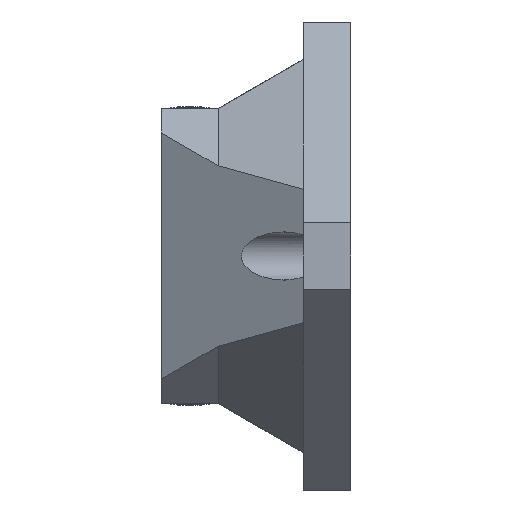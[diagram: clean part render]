
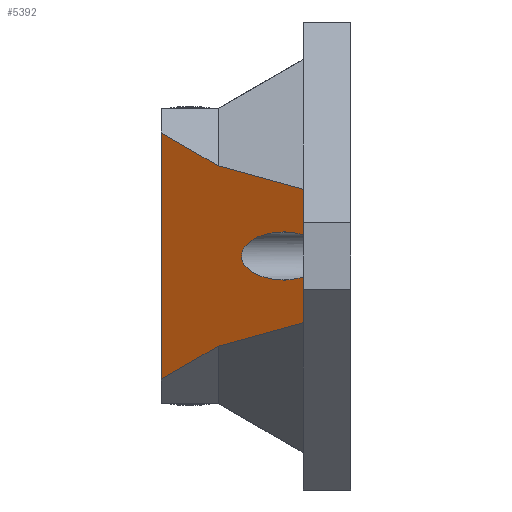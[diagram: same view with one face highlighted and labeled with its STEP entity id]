
A CAD part, left-side view. The second image highlights one B-rep face of the part: STEP entity #5392.
In plain terms, the highlighted planar face has unit normal (-0.866, 0.5, 0).
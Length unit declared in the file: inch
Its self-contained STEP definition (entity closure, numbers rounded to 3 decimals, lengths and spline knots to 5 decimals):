
#147 = VECTOR ( 'NONE', #5827, 39.37008 ) ;
#196 = CARTESIAN_POINT ( 'NONE',  ( -2.475, 3.93701, -2.56021 ) ) ;
#290 = VERTEX_POINT ( 'NONE', #196 ) ;
#327 = CARTESIAN_POINT ( 'NONE',  ( -4.1051, 1.11358, -0.47858 ) ) ;
#524 = ORIENTED_EDGE ( 'NONE', *, *, #5035, .T. ) ;
#540 = ORIENTED_EDGE ( 'NONE', *, *, #6911, .T. ) ;
#572 = LINE ( 'NONE', #7210, #4988 ) ;
#600 = CARTESIAN_POINT ( 'NONE',  ( -3.93701, 1.40474, -0.5 ) ) ;
#652 = CARTESIAN_POINT ( 'NONE',  ( -2.93701, 3.13679, 0.5 ) ) ;
#680 = LINE ( 'NONE', #5335, #6199 ) ;
#772 = LINE ( 'NONE', #2852, #6289 ) ;
#797 = EDGE_CURVE ( 'NONE', #4101, #6786, #6210, .T. ) ;
#846 =( BOUNDED_CURVE ( )  B_SPLINE_CURVE ( 3, ( #600, #6587, #652, #6024 ),
 .UNSPECIFIED., .F., .F. ) 
 B_SPLINE_CURVE_WITH_KNOTS ( ( 4, 4 ),
 ( 4.71239, 7.85398 ),
 .UNSPECIFIED. ) 
 CURVE ( )  GEOMETRIC_REPRESENTATION_ITEM ( )  RATIONAL_B_SPLINE_CURVE ( ( 1., 0.333, 0.333, 1. ) ) 
 REPRESENTATION_ITEM ( '' )  );
#849 = VECTOR ( 'NONE', #2330, 39.37008 ) ;
#868 = VERTEX_POINT ( 'NONE', #6564 ) ;
#872 = DIRECTION ( 'NONE',  ( 0.866, -0.5, 0. ) ) ;
#931 = CARTESIAN_POINT ( 'NONE',  ( -4.1051, 1.11358, 0.47858 ) ) ;
#997 = DIRECTION ( 'NONE',  ( 0.447, 0.775, 0.447 ) ) ;
#1182 = EDGE_CURVE ( 'NONE', #6786, #6698, #3255, .T. ) ;
#1240 = DIRECTION ( 'NONE',  ( -0.486, -0.842, 0.233 ) ) ;
#1270 = EDGE_LOOP ( 'NONE', ( #6567, #3192, #3568, #2574, #5750, #2462, #540, #524, #5597, #4566 ) ) ;
#1489 = PLANE ( 'NONE',  #6613 ) ;
#1601 = VECTOR ( 'NONE', #7002, 39.37008 ) ;
#1797 = EDGE_CURVE ( 'NONE', #3268, #7055, #3799, .T. ) ;
#1922 = EDGE_CURVE ( 'NONE', #6698, #2176, #846, .T. ) ;
#1946 = CARTESIAN_POINT ( 'NONE',  ( -3.15691, 2.75591, -1.8783 ) ) ;
#2047 = CARTESIAN_POINT ( 'NONE',  ( -3.93701, 1.40474, 0.5 ) ) ;
#2176 = VERTEX_POINT ( 'NONE', #5634 ) ;
#2330 = DIRECTION ( 'NONE',  ( 0.486, 0.842, 0.233 ) ) ;
#2427 = EDGE_CURVE ( 'NONE', #2479, #4101, #680, .T. ) ;
#2462 = ORIENTED_EDGE ( 'NONE', *, *, #1922, .T. ) ;
#2479 = VERTEX_POINT ( 'NONE', #1946 ) ;
#2574 = ORIENTED_EDGE ( 'NONE', *, *, #797, .T. ) ;
#2593 = CARTESIAN_POINT ( 'NONE',  ( -4.17977, 0.98425, -0.43711 ) ) ;
#2641 = EDGE_CURVE ( 'NONE', #7055, #290, #5735, .T. ) ;
#2852 = CARTESIAN_POINT ( 'NONE',  ( -4.17977, 0.98425, -5.56777 ) ) ;
#2959 = LINE ( 'NONE', #4092, #849 ) ;
#3017 = EDGE_CURVE ( 'NONE', #290, #2479, #572, .T. ) ;
#3192 = ORIENTED_EDGE ( 'NONE', *, *, #3017, .T. ) ;
#3241 = CARTESIAN_POINT ( 'NONE',  ( -2.475, 3.93701, -5.56777 ) ) ;
#3255 =( BOUNDED_CURVE ( )  B_SPLINE_CURVE ( 3, ( #7500, #327, #6779, #3864 ),
 .UNSPECIFIED., .F., .F. ) 
 B_SPLINE_CURVE_WITH_KNOTS ( ( 4, 4 ),
 ( 4.20542, 4.71239 ),
 .UNSPECIFIED. ) 
 CURVE ( )  GEOMETRIC_REPRESENTATION_ITEM ( )  RATIONAL_B_SPLINE_CURVE ( ( 1., 0.979, 0.979, 1. ) ) 
 REPRESENTATION_ITEM ( '' )  );
#3268 = VERTEX_POINT ( 'NONE', #4418 ) ;
#3568 = ORIENTED_EDGE ( 'NONE', *, *, #2427, .T. ) ;
#3759 = CARTESIAN_POINT ( 'NONE',  ( -3.93701, 1.40474, -0.5 ) ) ;
#3799 = LINE ( 'NONE', #6939, #4999 ) ;
#3803 = CARTESIAN_POINT ( 'NONE',  ( -2.475, 3.93701, 2.56021 ) ) ;
#3831 = CARTESIAN_POINT ( 'NONE',  ( -4.02242, 1.2568, 0.5 ) ) ;
#3864 = CARTESIAN_POINT ( 'NONE',  ( -3.93701, 1.40474, -0.5 ) ) ;
#4082 = CARTESIAN_POINT ( 'NONE',  ( -2.475, 3.93701, 0. ) ) ;
#4092 = CARTESIAN_POINT ( 'NONE',  ( -3.35588, 2.41128, 1.78293 ) ) ;
#4101 = VERTEX_POINT ( 'NONE', #4928 ) ;
#4418 = CARTESIAN_POINT ( 'NONE',  ( -3.15691, 2.75591, 1.8783 ) ) ;
#4566 = ORIENTED_EDGE ( 'NONE', *, *, #1797, .T. ) ;
#4928 = CARTESIAN_POINT ( 'NONE',  ( -4.17977, 0.98425, -1.388 ) ) ;
#4988 = VECTOR ( 'NONE', #5982, 39.37008 ) ;
#4999 = VECTOR ( 'NONE', #997, 39.37008 ) ;
#5035 = EDGE_CURVE ( 'NONE', #6399, #868, #772, .T. ) ;
#5335 = CARTESIAN_POINT ( 'NONE',  ( -2.09393, 4.59704, -2.38784 ) ) ;
#5392 = ADVANCED_FACE ( 'NONE', ( #6751 ), #1489, .F. ) ;
#5597 = ORIENTED_EDGE ( 'NONE', *, *, #5842, .T. ) ;
#5634 = CARTESIAN_POINT ( 'NONE',  ( -3.93701, 1.40474, 0.5 ) ) ;
#5724 = CARTESIAN_POINT ( 'NONE',  ( -4.17977, 0.98425, 0.43711 ) ) ;
#5735 = LINE ( 'NONE', #4082, #1601 ) ;
#5750 = ORIENTED_EDGE ( 'NONE', *, *, #1182, .T. ) ;
#5827 = DIRECTION ( 'NONE',  ( 0., 0., 1. ) ) ;
#5842 = EDGE_CURVE ( 'NONE', #868, #3268, #2959, .T. ) ;
#5928 = CARTESIAN_POINT ( 'NONE',  ( -4.17977, 0.98425, -5.56777 ) ) ;
#5982 = DIRECTION ( 'NONE',  ( -0.447, -0.775, 0.447 ) ) ;
#6024 = CARTESIAN_POINT ( 'NONE',  ( -3.93701, 1.40474, 0.5 ) ) ;
#6199 = VECTOR ( 'NONE', #1240, 39.37008 ) ;
#6210 = LINE ( 'NONE', #5928, #147 ) ;
#6289 = VECTOR ( 'NONE', #7028, 39.37008 ) ;
#6399 = VERTEX_POINT ( 'NONE', #5724 ) ;
#6564 = CARTESIAN_POINT ( 'NONE',  ( -4.17977, 0.98425, 1.388 ) ) ;
#6567 = ORIENTED_EDGE ( 'NONE', *, *, #2641, .T. ) ;
#6587 = CARTESIAN_POINT ( 'NONE',  ( -2.93701, 3.13679, -0.5 ) ) ;
#6613 = AXIS2_PLACEMENT_3D ( 'NONE', #3241, #872, #6756 ) ;
#6698 = VERTEX_POINT ( 'NONE', #3759 ) ;
#6751 = FACE_OUTER_BOUND ( 'NONE', #1270, .T. ) ;
#6756 = DIRECTION ( 'NONE',  ( 0.5, 0.866, 0. ) ) ;
#6779 = CARTESIAN_POINT ( 'NONE',  ( -4.02242, 1.2568, -0.5 ) ) ;
#6786 = VERTEX_POINT ( 'NONE', #2593 ) ;
#6801 = CARTESIAN_POINT ( 'NONE',  ( -4.17977, 0.98425, 0.43711 ) ) ;
#6911 = EDGE_CURVE ( 'NONE', #2176, #6399, #7383, .T. ) ;
#6939 = CARTESIAN_POINT ( 'NONE',  ( -4.1006, 1.12139, 0.93461 ) ) ;
#7002 = DIRECTION ( 'NONE',  ( 0., 0., -1. ) ) ;
#7028 = DIRECTION ( 'NONE',  ( 0., 0., 1. ) ) ;
#7055 = VERTEX_POINT ( 'NONE', #3803 ) ;
#7210 = CARTESIAN_POINT ( 'NONE',  ( -1.87349, 4.97886, -3.16172 ) ) ;
#7383 =( BOUNDED_CURVE ( )  B_SPLINE_CURVE ( 3, ( #2047, #3831, #931, #6801 ),
 .UNSPECIFIED., .F., .F. ) 
 B_SPLINE_CURVE_WITH_KNOTS ( ( 4, 4 ),
 ( 1.5708, 2.07777 ),
 .UNSPECIFIED. ) 
 CURVE ( )  GEOMETRIC_REPRESENTATION_ITEM ( )  RATIONAL_B_SPLINE_CURVE ( ( 1., 0.979, 0.979, 1. ) ) 
 REPRESENTATION_ITEM ( '' )  );
#7500 = CARTESIAN_POINT ( 'NONE',  ( -4.17977, 0.98425, -0.43711 ) ) ;
